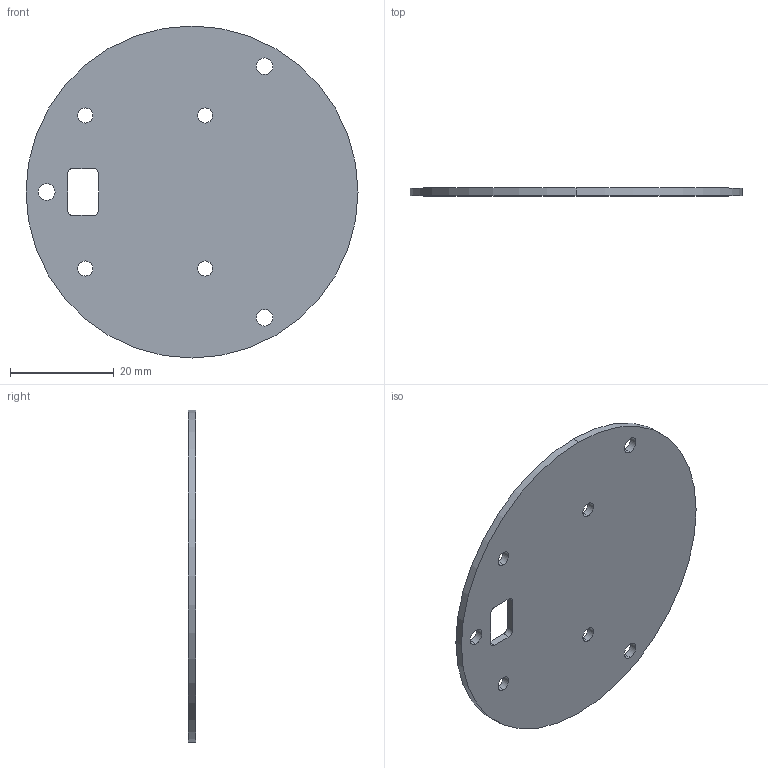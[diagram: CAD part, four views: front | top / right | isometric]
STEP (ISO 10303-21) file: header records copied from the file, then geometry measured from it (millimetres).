
FILE_DESCRIPTION (( 'STEP AP214' ), '1' );
FILE_NAME ('30x Small top plate.STEP', '2024-02-28T20:22:21', ( '' ), ( '' ), 'SwSTEP 2.0', 'SolidWorks 2023', '' );
FILE_SCHEMA (( 'AUTOMOTIVE_DESIGN' ));
Length unit declared in the file: millimetre
Products named in the file (1): 30x Small top plate
Bounding box: 64 x 1.5 x 64 mm (x, y, z)
Volume: 4670 mm3; surface area: 6670.5 mm2
Topology: 1 solids, 1 shells, 26 faces, 72 edges, 48 vertices
Faces by surface type: cylinder 20, plane 6
Entity records: 911 total; most frequent: DIRECTION 166, CARTESIAN_POINT 147, ORIENTED_EDGE 144, EDGE_CURVE 72, AXIS2_PLACEMENT_3D 67, VERTEX_POINT 48, EDGE_LOOP 42, CIRCLE 40
